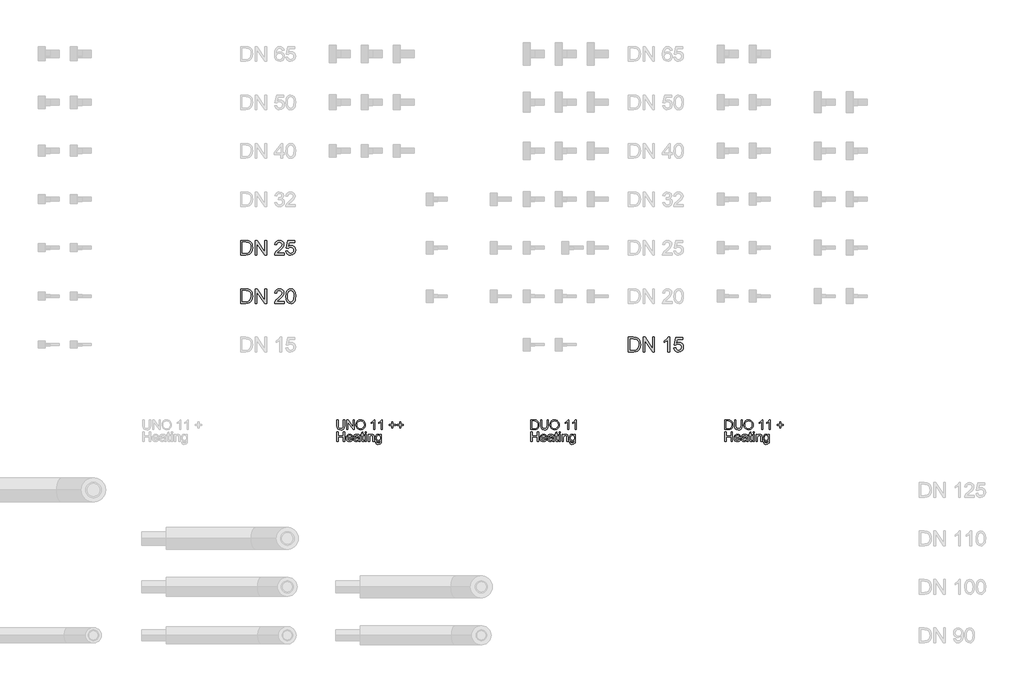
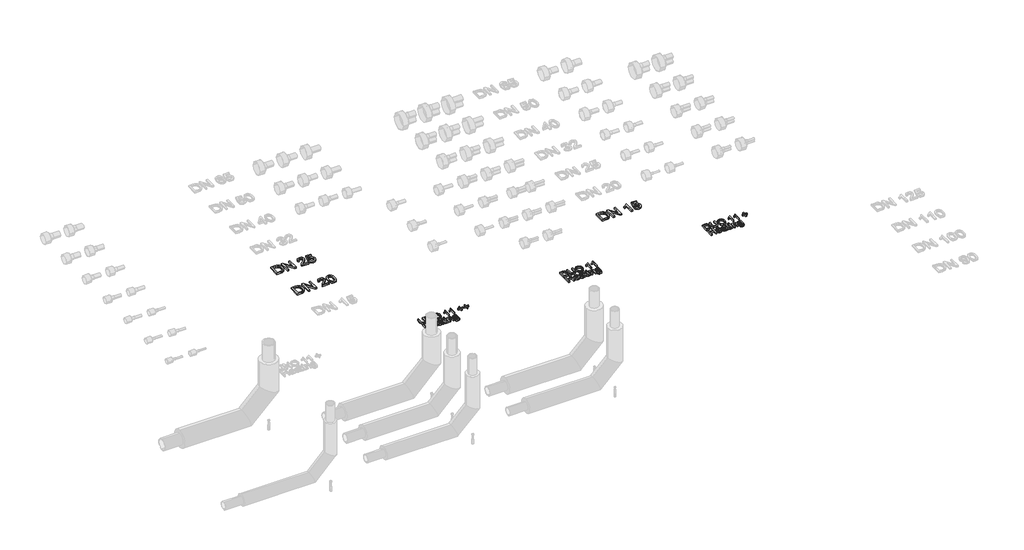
# One storey, part 22 of 44: 6 proxies.
"""IFC4 building model written with IfcOpenShell, lengths in millimetres."""

from ifc_helpers import new_model, si_unit, origin, origin_with_axes, place, context, project, spatial, polyline, outline, extrude, element, save

model = new_model("IFC4")

# Units and contexts
model_context = context("Model", 3, world=origin())
ifc_project = project(units=[si_unit("LENGTHUNIT", "METRE", prefix="MILLI")], contexts=[model_context])

# Site, building, storey
site = spatial("IfcSite", under=ifc_project)
building = spatial("IfcBuilding", under=site)
storey = spatial("IfcBuildingStorey", under=building, Name="REHAU Starting view", Elevation=0.0)

# Proxies
placement = place(None, origin())
element("IfcBuildingElementProxy", 1, Name="100", ObjectType="100", at=placement, inside=storey, context=model_context, shape_type="SweptSolid", body=[
    extrude(outline(polyline([(27076.9118625, 6222.431128), (27089.4689012, 6222.431128), (27089.4689012, 6164.477451), (27086.0598614, 6140.4547567), (27073.7726028, 6125.9847316), (27063.5086951, 6121.8000739), (27050.4734097, 6120.405188), (27027.529836, 6125.2612303), (27019.8901532, 6131.2055902), (27014.8011189, 6139.3265853), (27010.9874089, 6164.477451), (27010.9874089, 6222.431128), (27023.5444477, 6222.431128), (27023.5444477, 6164.9189094), (27026.0215198, 6145.7767829), (27034.5318566, 6136.2976902), (27049.2961874, 6132.9622268), (27062.067824, 6134.6115644), (27070.5597667, 6139.5595772), (27075.3238385, 6149.1980855), (27076.9118625, 6164.9189094), (27076.9118625, 6222.431128)])), origin_with_axes(), (0.0, 0.0, 1.0), 20.0),
    extrude(outline(polyline([(27111.4437191, 6121.9748178), (27111.4437191, 6222.431128), (27124.8836746, 6222.431128), (27177.3681726, 6142.8459897), (27177.3681726, 6222.431128), (27189.9252114, 6222.431128), (27189.9252114, 6121.9748178), (27176.4852558, 6121.9748178), (27124.0007578, 6201.5844816), (27124.0007578, 6121.9748178), (27111.4437191, 6121.9748178)])), origin_with_axes(), (0.0, 0.0, 1.0), 20.0),
    extrude(outline(polyline([(27207.1911397, 6170.8785977), (27210.5388658, 6193.0925389), (27220.5820443, 6209.8986147), (27235.9165921, 6220.4752221), (27255.1384264, 6224.0007578), (27268.3147332, 6222.3452889), (27280.1298766, 6217.3788819), (27289.9400631, 6209.4510249), (27297.1014993, 6198.9112058), (27301.479295, 6186.2683279), (27302.9385603, 6172.0312947), (27301.402653, 6157.6041891), (27296.794931, 6144.7835015), (27289.369846, 6134.2252883), (27279.3818499, 6126.5856055), (27267.667874, 6121.9502924), (27255.06485, 6120.405188), (27241.6862081, 6122.1127736), (27229.8036197, 6127.2355304), (27220.0179586, 6135.3105402), (27212.9300988, 6145.8748848), (27207.1911397, 6170.8785977)]), holes=[polyline([(27219.7481785, 6170.7559704), (27222.2589731, 6155.0412778), (27229.7913569, 6143.0667189), (27241.1129253, 6135.4883498), (27254.9912736, 6132.9622268), (27269.071957, 6135.5128753), (27280.4119195, 6143.1648208), (27287.889121, 6155.5072617), (27290.3815215, 6172.1293965), (27286.1140904, 6192.8534156), (27273.6428907, 6206.575414), (27255.2120028, 6211.4437191), (27241.7046022, 6209.0984714), (27230.2205526, 6202.0627282), (27222.366272, 6189.5455433), (27219.7481785, 6170.7559704)])]), origin_with_axes(), (0.0, 0.0, 1.0), 20.0),
    extrude(outline(polyline([(27401.8252406, 6121.9748178), (27389.2682018, 6121.9748178), (27389.2682018, 6200.2601064), (27377.3733507, 6191.7865578), (27364.1541243, 6185.4467247), (27364.1541243, 6197.3170505), (27382.5604868, 6209.0647488), (27393.7318367, 6222.431128), (27401.8252406, 6222.431128), (27401.8252406, 6121.9748178)])), origin_with_axes(), (0.0, 0.0, 1.0), 20.0),
    extrude(outline(polyline([(27478.7371031, 6121.9748178), (27466.1800643, 6121.9748178), (27466.1800643, 6200.2601064), (27454.2852131, 6191.7865578), (27441.0659868, 6185.4467247), (27441.0659868, 6197.3170505), (27459.4723492, 6209.0647488), (27470.6436992, 6222.431128), (27478.7371031, 6222.431128), (27478.7371031, 6121.9748178)])), origin_with_axes(), (0.0, 0.0, 1.0), 20.0),
    extrude(outline(polyline([(27576.0541535, 6137.6711163), (27576.0541535, 6164.3548237), (27549.3704461, 6164.3548237), (27549.3704461, 6176.9118625), (27576.0541535, 6176.9118625), (27576.0541535, 6203.5955698), (27588.6111923, 6203.5955698), (27588.6111923, 6176.9118625), (27615.2948997, 6176.9118625), (27615.2948997, 6164.3548237), (27588.6111923, 6164.3548237), (27588.6111923, 6137.6711163), (27576.0541535, 6137.6711163)])), origin_with_axes(), (0.0, 0.0, 1.0), 20.0),
    extrude(outline(polyline([(27657.6749055, 6137.6711163), (27657.6749055, 6164.3548237), (27630.9911981, 6164.3548237), (27630.9911981, 6176.9118625), (27657.6749055, 6176.9118625), (27657.6749055, 6203.5955698), (27670.2319443, 6203.5955698), (27670.2319443, 6176.9118625), (27696.9156517, 6176.9118625), (27696.9156517, 6164.3548237), (27670.2319443, 6164.3548237), (27670.2319443, 6137.6711163), (27657.6749055, 6137.6711163)])), origin_with_axes(), (0.0, 0.0, 1.0), 20.0),
    extrude(outline(polyline([(27010.9874089, 6000.0), (27010.9874089, 6100.4563101), (27023.5444477, 6100.4563101), (27023.5444477, 6059.6459342), (27076.9118625, 6059.6459342), (27076.9118625, 6100.4563101), (27089.4689012, 6100.4563101), (27089.4689012, 6000.0), (27076.9118625, 6000.0), (27076.9118625, 6047.0888954), (27023.5444477, 6047.0888954), (27023.5444477, 6000.0), (27010.9874089, 6000.0)])), origin_with_axes(), (0.0, 0.0, 1.0), 20.0),
    extrude(outline(polyline([(27161.5247213, 6021.9748178), (27173.8365055, 6020.405188), (27169.4004617, 6011.1284304), (27162.321799, 6004.1938547), (27152.7599328, 5999.8712413), (27140.8742787, 5998.4303702), (27126.1406048, 6000.9166393), (27114.803708, 6008.3754468), (27107.5748268, 6020.3224146), (27105.1651997, 6036.2731647), (27107.5993522, 6052.7604095), (27114.9018098, 6065.0905877), (27126.0854225, 6072.7793214), (27140.1630402, 6075.3422326), (27153.8022651, 6072.7854527), (27164.7007692, 6065.1151131), (27171.846877, 6052.8094604), (27174.2289129, 6036.3467411), (27174.1553365, 6032.9622268), (27117.7222385, 6032.9622268), (27119.8958079, 6023.5628418), (27124.9449883, 6016.6527916), (27132.2321175, 6012.4037546), (27141.1195333, 6010.9874089), (27153.4313175, 6013.6116338), (27161.5247213, 6021.9748178)]), holes=[polyline([(27117.7222385, 6045.5192655), (27161.6718741, 6045.5192655), (27156.6441535, 6056.8990819), (27149.3233018, 6061.3136659), (27140.1139892, 6062.7851938), (27124.6506827, 6058.088567), (27119.7854433, 6052.5979283), (27117.7222385, 6045.5192655)])]), origin_with_axes(), (0.0, 0.0, 1.0), 20.0),
    extrude(outline(polyline([(27233.8748471, 6009.4177791), (27221.697953, 6000.9074423), (27208.2457347, 5998.4303702), (27197.7519008, 5999.9202922), (27190.0110505, 6004.3900585), (27185.2377816, 6011.1774813), (27183.646692, 6019.6203731), (27186.0501877, 6029.5531869), (27192.3654953, 6036.7636741), (27201.157875, 6040.8839524), (27212.0226566, 6042.7724133), (27233.8012707, 6047.0888954), (27233.8748471, 6049.8847985), (27230.4167563, 6059.1554248), (27216.5353424, 6062.7851938), (27203.8311508, 6060.3694354), (27197.7733606, 6051.7977849), (27185.2163218, 6053.3674148), (27190.6487126, 6065.6301479), (27201.5870706, 6072.8161096), (27218.1540231, 6075.3422326), (27233.372075, 6073.1104152), (27241.968251, 6067.5063461), (27245.8187492, 6058.9837466), (27246.4318858, 6047.9963376), (27246.4318858, 6032.3736156), (27247.069548, 6010.5582133), (27249.5711455, 6000.0), (27237.0141068, 6000.0), (27233.8748471, 6009.4177791)]), holes=[polyline([(27233.8748471, 6034.5318566), (27213.6168119, 6030.6813584), (27202.8133439, 6028.6457447), (27197.9205134, 6025.3348067), (27196.2037308, 6020.5032899), (27199.9438644, 6013.7097357), (27210.9190106, 6010.9874089), (27223.6232021, 6013.9917785), (27231.8147079, 6021.2635793), (27233.8012707, 6030.975664), (27233.8748471, 6034.5318566)])]), origin_with_axes(), (0.0, 0.0, 1.0), 20.0),
    extrude(outline(polyline([(27290.3815215, 6010.4723741), (27291.9511514, 5999.632118), (27282.5578978, 5998.4303702), (27272.0364727, 6000.5150348), (27266.7880229, 6005.9842138), (27265.267444, 6020.2335097), (27265.267444, 6061.215564), (27255.8496649, 6061.215564), (27255.8496649, 6073.7726028), (27265.267444, 6073.7726028), (27265.267444, 6091.7007187), (27277.8244828, 6099.082884), (27277.8244828, 6073.7726028), (27290.3815215, 6073.7726028), (27290.3815215, 6061.215564), (27277.8244828, 6061.215564), (27277.8244828, 6020.6013917), (27278.4866703, 6014.1266686), (27280.6326487, 6011.8335375), (27284.9123425, 6010.9874089), (27290.3815215, 6010.4723741)])), origin_with_axes(), (0.0, 0.0, 1.0), 20.0),
    extrude(outline(polyline([(27302.9385603, 6087.8992714), (27302.9385603, 6100.4563101), (27315.4955991, 6100.4563101), (27315.4955991, 6087.8992714), (27302.9385603, 6087.8992714)])), origin_with_axes(), (0.0, 0.0, 1.0), 20.0),
    extrude(outline(polyline([(27302.9385603, 6000.0), (27302.9385603, 6073.7726028), (27315.4955991, 6073.7726028), (27315.4955991, 6000.0), (27302.9385603, 6000.0)])), origin_with_axes(), (0.0, 0.0, 1.0), 20.0),
    extrude(outline(polyline([(27334.3311572, 6000.0), (27334.3311572, 6073.7726028), (27346.888196, 6073.7726028), (27346.888196, 6063.4719069), (27356.4899161, 6072.3746512), (27369.5987778, 6075.3422326), (27381.4568408, 6072.9509996), (27389.5502447, 6066.6724803), (27393.3149038, 6057.4386422), (27393.9770914, 6045.2985363), (27393.9770914, 6000.0), (27381.4200526, 6000.0), (27381.4200526, 6043.6062792), (27379.9730501, 6054.7163154), (27374.8594904, 6060.5901646), (27366.2387889, 6062.7851938), (27352.6148924, 6057.8555751), (27348.3198701, 6050.712533), (27346.888196, 6039.1426443), (27346.888196, 6000.0), (27334.3311572, 6000.0)])), origin_with_axes(), (0.0, 0.0, 1.0), 20.0),
    extrude(outline(polyline([(27408.10376, 5993.7214806), (27420.6607988, 5992.1518508), (27424.7320262, 5985.5299749), (27436.9211829, 5982.7340717), (27449.7725273, 5985.8978569), (27455.9038939, 5994.7760757), (27456.7622852, 6009.4177791), (27447.9208546, 6002.3544448), (27437.1419121, 6000.0), (27424.1955316, 6002.7407209), (27414.5416949, 6010.9628835), (27408.5360213, 6023.0171502), (27406.5341301, 6037.2541834), (27410.127111, 6056.7151409), (27420.5259087, 6070.4861903), (27436.5287755, 6075.3422326), (27447.7307822, 6072.5953804), (27456.7622852, 6064.3548237), (27456.7622852, 6073.7726028), (27469.319324, 6073.7726028), (27469.319324, 6010.0799667), (27465.8857587, 5985.6893904), (27455.0087144, 5974.3463622), (27436.6759283, 5970.1770329), (27424.9926092, 5971.6454952), (27415.7924937, 5976.0508821), (27409.8910533, 5983.4054563), (27408.10376, 5993.7214806)]), holes=[polyline([(27419.0911689, 6038.1125747), (27420.4308725, 6026.5948026), (27424.4499833, 6018.6761426), (27430.4924451, 6014.0868147), (27437.9022016, 6012.5570388), (27445.2567758, 6014.0776177), (27451.3298944, 6018.6393544), (27455.4041875, 6026.4568468), (27456.7622852, 6037.7446927), (27455.3643336, 6048.6309341), (27451.1704789, 6056.4698863), (27445.0084555, 6061.2063669), (27437.7059979, 6062.7851938), (27430.5353646, 6061.2308924), (27424.5235597, 6056.5679881), (27420.4492666, 6048.8455319), (27419.0911689, 6038.1125747)])]), origin_with_axes(), (0.0, 0.0, 1.0), 20.0),
])
element("IfcBuildingElementProxy", 2, Name="100", ObjectType="100", at=placement, inside=storey, context=model_context, shape_type="SweptSolid", body=[
    extrude(outline(polyline([(29010.9874089, 6121.9748178), (29010.9874089, 6222.431128), (29045.6418929, 6222.431128), (29063.5700088, 6220.9841255), (29078.3343395, 6213.7981638), (29090.2291907, 6196.6303374), (29094.1777908, 6172.7425332), (29091.5045149, 6152.4722352), (29084.6373844, 6137.8427946), (29075.4648599, 6128.7315838), (29063.4596442, 6123.6916005), (29047.3096246, 6121.9748178), (29010.9874089, 6121.9748178)]), holes=[polyline([(29023.5444477, 6134.5318566), (29045.7645202, 6134.5318566), (29061.9268025, 6136.3467411), (29071.2464797, 6141.4725636), (29078.8861625, 6153.9437632), (29081.620752, 6172.9387369), (29080.2810484, 6186.6239471), (29076.2619376, 6196.7284393), (29063.2266522, 6207.863001), (29045.4211637, 6209.8740892), (29023.5444477, 6209.8740892), (29023.5444477, 6134.5318566)])]), origin_with_axes(), (0.0, 0.0, 1.0), 20.0),
    extrude(outline(polyline([(29177.3681726, 6222.431128), (29189.9252114, 6222.431128), (29189.9252114, 6164.477451), (29186.5161716, 6140.4547567), (29174.2289129, 6125.9847316), (29163.9650053, 6121.8000739), (29150.9297199, 6120.405188), (29127.9861461, 6125.2612303), (29120.3464634, 6131.2055902), (29115.2574291, 6139.3265853), (29111.4437191, 6164.477451), (29111.4437191, 6222.431128), (29124.0007578, 6222.431128), (29124.0007578, 6164.9189094), (29126.4778299, 6145.7767829), (29134.9881668, 6136.2976902), (29149.7524975, 6132.9622268), (29162.5241341, 6134.6115644), (29171.0160768, 6139.5595772), (29175.7801487, 6149.1980855), (29177.3681726, 6164.9189094), (29177.3681726, 6222.431128)])), origin_with_axes(), (0.0, 0.0, 1.0), 20.0),
    extrude(outline(polyline([(29207.1911397, 6170.8785977), (29210.5388658, 6193.0925389), (29220.5820443, 6209.8986147), (29235.9165921, 6220.4752221), (29255.1384264, 6224.0007578), (29268.3147332, 6222.3452889), (29280.1298766, 6217.3788819), (29289.9400631, 6209.4510249), (29297.1014993, 6198.9112058), (29301.479295, 6186.2683279), (29302.9385603, 6172.0312947), (29301.402653, 6157.6041891), (29296.794931, 6144.7835015), (29289.369846, 6134.2252883), (29279.3818499, 6126.5856055), (29267.667874, 6121.9502924), (29255.06485, 6120.405188), (29241.6862081, 6122.1127736), (29229.8036197, 6127.2355304), (29220.0179586, 6135.3105402), (29212.9300988, 6145.8748848), (29207.1911397, 6170.8785977)]), holes=[polyline([(29219.7481785, 6170.7559704), (29222.2589731, 6155.0412778), (29229.7913569, 6143.0667189), (29241.1129253, 6135.4883498), (29254.9912736, 6132.9622268), (29269.071957, 6135.5128753), (29280.4119195, 6143.1648208), (29287.889121, 6155.5072617), (29290.3815215, 6172.1293965), (29286.1140904, 6192.8534156), (29273.6428907, 6206.575414), (29255.2120028, 6211.4437191), (29241.7046022, 6209.0984714), (29230.2205526, 6202.0627282), (29222.366272, 6189.5455433), (29219.7481785, 6170.7559704)])]), origin_with_axes(), (0.0, 0.0, 1.0), 20.0),
    extrude(outline(polyline([(29401.8252406, 6121.9748178), (29389.2682018, 6121.9748178), (29389.2682018, 6200.2601064), (29377.3733507, 6191.7865578), (29364.1541243, 6185.4467247), (29364.1541243, 6197.3170505), (29382.5604868, 6209.0647488), (29393.7318367, 6222.431128), (29401.8252406, 6222.431128), (29401.8252406, 6121.9748178)])), origin_with_axes(), (0.0, 0.0, 1.0), 20.0),
    extrude(outline(polyline([(29478.7371031, 6121.9748178), (29466.1800643, 6121.9748178), (29466.1800643, 6200.2601064), (29454.2852131, 6191.7865578), (29441.0659868, 6185.4467247), (29441.0659868, 6197.3170505), (29459.4723492, 6209.0647488), (29470.6436992, 6222.431128), (29478.7371031, 6222.431128), (29478.7371031, 6121.9748178)])), origin_with_axes(), (0.0, 0.0, 1.0), 20.0),
    extrude(outline(polyline([(29010.9874089, 6000.0), (29010.9874089, 6100.4563101), (29023.5444477, 6100.4563101), (29023.5444477, 6059.6459342), (29076.9118625, 6059.6459342), (29076.9118625, 6100.4563101), (29089.4689012, 6100.4563101), (29089.4689012, 6000.0), (29076.9118625, 6000.0), (29076.9118625, 6047.0888954), (29023.5444477, 6047.0888954), (29023.5444477, 6000.0), (29010.9874089, 6000.0)])), origin_with_axes(), (0.0, 0.0, 1.0), 20.0),
    extrude(outline(polyline([(29161.5247213, 6021.9748178), (29173.8365055, 6020.405188), (29169.4004617, 6011.1284304), (29162.321799, 6004.1938547), (29152.7599328, 5999.8712413), (29140.8742787, 5998.4303702), (29126.1406048, 6000.9166393), (29114.803708, 6008.3754468), (29107.5748268, 6020.3224146), (29105.1651997, 6036.2731647), (29107.5993522, 6052.7604095), (29114.9018098, 6065.0905877), (29126.0854225, 6072.7793214), (29140.1630402, 6075.3422326), (29153.8022651, 6072.7854527), (29164.7007692, 6065.1151131), (29171.846877, 6052.8094604), (29174.2289129, 6036.3467411), (29174.1553365, 6032.9622268), (29117.7222385, 6032.9622268), (29119.8958079, 6023.5628418), (29124.9449883, 6016.6527916), (29132.2321175, 6012.4037546), (29141.1195333, 6010.9874089), (29153.4313175, 6013.6116338), (29161.5247213, 6021.9748178)]), holes=[polyline([(29117.7222385, 6045.5192655), (29161.6718741, 6045.5192655), (29156.6441535, 6056.8990819), (29149.3233018, 6061.3136659), (29140.1139892, 6062.7851938), (29124.6506827, 6058.088567), (29119.7854433, 6052.5979283), (29117.7222385, 6045.5192655)])]), origin_with_axes(), (0.0, 0.0, 1.0), 20.0),
    extrude(outline(polyline([(29233.8748471, 6009.4177791), (29221.697953, 6000.9074423), (29208.2457347, 5998.4303702), (29197.7519008, 5999.9202922), (29190.0110505, 6004.3900585), (29185.2377816, 6011.1774813), (29183.646692, 6019.6203731), (29186.0501877, 6029.5531869), (29192.3654953, 6036.7636741), (29201.157875, 6040.8839524), (29212.0226566, 6042.7724133), (29233.8012707, 6047.0888954), (29233.8748471, 6049.8847985), (29230.4167563, 6059.1554248), (29216.5353424, 6062.7851938), (29203.8311508, 6060.3694354), (29197.7733606, 6051.7977849), (29185.2163218, 6053.3674148), (29190.6487126, 6065.6301479), (29201.5870706, 6072.8161096), (29218.1540231, 6075.3422326), (29233.372075, 6073.1104152), (29241.968251, 6067.5063461), (29245.8187492, 6058.9837466), (29246.4318858, 6047.9963376), (29246.4318858, 6032.3736156), (29247.069548, 6010.5582133), (29249.5711455, 6000.0), (29237.0141068, 6000.0), (29233.8748471, 6009.4177791)]), holes=[polyline([(29233.8748471, 6034.5318566), (29213.6168119, 6030.6813584), (29202.8133439, 6028.6457447), (29197.9205134, 6025.3348067), (29196.2037308, 6020.5032899), (29199.9438644, 6013.7097357), (29210.9190106, 6010.9874089), (29223.6232021, 6013.9917785), (29231.8147079, 6021.2635793), (29233.8012707, 6030.975664), (29233.8748471, 6034.5318566)])]), origin_with_axes(), (0.0, 0.0, 1.0), 20.0),
    extrude(outline(polyline([(29290.3815215, 6010.4723741), (29291.9511514, 5999.632118), (29282.5578978, 5998.4303702), (29272.0364727, 6000.5150348), (29266.7880229, 6005.9842138), (29265.267444, 6020.2335097), (29265.267444, 6061.215564), (29255.8496649, 6061.215564), (29255.8496649, 6073.7726028), (29265.267444, 6073.7726028), (29265.267444, 6091.7007187), (29277.8244828, 6099.082884), (29277.8244828, 6073.7726028), (29290.3815215, 6073.7726028), (29290.3815215, 6061.215564), (29277.8244828, 6061.215564), (29277.8244828, 6020.6013917), (29278.4866703, 6014.1266686), (29280.6326487, 6011.8335375), (29284.9123425, 6010.9874089), (29290.3815215, 6010.4723741)])), origin_with_axes(), (0.0, 0.0, 1.0), 20.0),
    extrude(outline(polyline([(29302.9385603, 6087.8992714), (29302.9385603, 6100.4563101), (29315.4955991, 6100.4563101), (29315.4955991, 6087.8992714), (29302.9385603, 6087.8992714)])), origin_with_axes(), (0.0, 0.0, 1.0), 20.0),
    extrude(outline(polyline([(29302.9385603, 6000.0), (29302.9385603, 6073.7726028), (29315.4955991, 6073.7726028), (29315.4955991, 6000.0), (29302.9385603, 6000.0)])), origin_with_axes(), (0.0, 0.0, 1.0), 20.0),
    extrude(outline(polyline([(29334.3311572, 6000.0), (29334.3311572, 6073.7726028), (29346.888196, 6073.7726028), (29346.888196, 6063.4719069), (29356.4899161, 6072.3746512), (29369.5987778, 6075.3422326), (29381.4568408, 6072.9509996), (29389.5502447, 6066.6724803), (29393.3149038, 6057.4386422), (29393.9770914, 6045.2985363), (29393.9770914, 6000.0), (29381.4200526, 6000.0), (29381.4200526, 6043.6062792), (29379.9730501, 6054.7163154), (29374.8594904, 6060.5901646), (29366.2387889, 6062.7851938), (29352.6148924, 6057.8555751), (29348.3198701, 6050.712533), (29346.888196, 6039.1426443), (29346.888196, 6000.0), (29334.3311572, 6000.0)])), origin_with_axes(), (0.0, 0.0, 1.0), 20.0),
    extrude(outline(polyline([(29408.10376, 5993.7214806), (29420.6607988, 5992.1518508), (29424.7320262, 5985.5299749), (29436.9211829, 5982.7340717), (29449.7725273, 5985.8978569), (29455.9038939, 5994.7760757), (29456.7622852, 6009.4177791), (29447.9208546, 6002.3544448), (29437.1419121, 6000.0), (29424.1955316, 6002.7407209), (29414.5416949, 6010.9628835), (29408.5360213, 6023.0171502), (29406.5341301, 6037.2541834), (29410.127111, 6056.7151409), (29420.5259087, 6070.4861903), (29436.5287755, 6075.3422326), (29447.7307822, 6072.5953804), (29456.7622852, 6064.3548237), (29456.7622852, 6073.7726028), (29469.319324, 6073.7726028), (29469.319324, 6010.0799667), (29465.8857587, 5985.6893904), (29455.0087144, 5974.3463622), (29436.6759283, 5970.1770329), (29424.9926092, 5971.6454952), (29415.7924937, 5976.0508821), (29409.8910533, 5983.4054563), (29408.10376, 5993.7214806)]), holes=[polyline([(29419.0911689, 6038.1125747), (29420.4308725, 6026.5948026), (29424.4499833, 6018.6761426), (29430.4924451, 6014.0868147), (29437.9022016, 6012.5570388), (29445.2567758, 6014.0776177), (29451.3298944, 6018.6393544), (29455.4041875, 6026.4568468), (29456.7622852, 6037.7446927), (29455.3643336, 6048.6309341), (29451.1704789, 6056.4698863), (29445.0084555, 6061.2063669), (29437.7059979, 6062.7851938), (29430.5353646, 6061.2308924), (29424.5235597, 6056.5679881), (29420.4492666, 6048.8455319), (29419.0911689, 6038.1125747)])]), origin_with_axes(), (0.0, 0.0, 1.0), 20.0),
])
element("IfcBuildingElementProxy", 3, Name="100", ObjectType="100", at=placement, inside=storey, context=model_context, shape_type="SweptSolid", body=[
    extrude(outline(polyline([(31010.9874089, 6121.9748178), (31010.9874089, 6222.431128), (31045.6418929, 6222.431128), (31063.5700088, 6220.9841255), (31078.3343395, 6213.7981638), (31090.2291907, 6196.6303374), (31094.1777908, 6172.7425332), (31091.5045149, 6152.4722352), (31084.6373844, 6137.8427946), (31075.4648599, 6128.7315838), (31063.4596442, 6123.6916005), (31047.3096246, 6121.9748178), (31010.9874089, 6121.9748178)]), holes=[polyline([(31023.5444477, 6134.5318566), (31045.7645202, 6134.5318566), (31061.9268025, 6136.3467411), (31071.2464797, 6141.4725636), (31078.8861625, 6153.9437632), (31081.620752, 6172.9387369), (31080.2810484, 6186.6239471), (31076.2619376, 6196.7284393), (31063.2266522, 6207.863001), (31045.4211637, 6209.8740892), (31023.5444477, 6209.8740892), (31023.5444477, 6134.5318566)])]), origin_with_axes(), (0.0, 0.0, 1.0), 20.0),
    extrude(outline(polyline([(31177.3681726, 6222.431128), (31189.9252114, 6222.431128), (31189.9252114, 6164.477451), (31186.5161716, 6140.4547567), (31174.2289129, 6125.9847316), (31163.9650053, 6121.8000739), (31150.9297199, 6120.405188), (31127.9861461, 6125.2612303), (31120.3464634, 6131.2055902), (31115.2574291, 6139.3265853), (31111.4437191, 6164.477451), (31111.4437191, 6222.431128), (31124.0007578, 6222.431128), (31124.0007578, 6164.9189094), (31126.4778299, 6145.7767829), (31134.9881668, 6136.2976902), (31149.7524975, 6132.9622268), (31162.5241341, 6134.6115644), (31171.0160768, 6139.5595772), (31175.7801487, 6149.1980855), (31177.3681726, 6164.9189094), (31177.3681726, 6222.431128)])), origin_with_axes(), (0.0, 0.0, 1.0), 20.0),
    extrude(outline(polyline([(31207.1911397, 6170.8785977), (31210.5388658, 6193.0925389), (31220.5820443, 6209.8986147), (31235.9165921, 6220.4752221), (31255.1384264, 6224.0007578), (31268.3147332, 6222.3452889), (31280.1298766, 6217.3788819), (31289.9400631, 6209.4510249), (31297.1014993, 6198.9112058), (31301.479295, 6186.2683279), (31302.9385603, 6172.0312947), (31301.402653, 6157.6041891), (31296.794931, 6144.7835015), (31289.369846, 6134.2252883), (31279.3818499, 6126.5856055), (31267.667874, 6121.9502924), (31255.06485, 6120.405188), (31241.6862081, 6122.1127736), (31229.8036197, 6127.2355304), (31220.0179586, 6135.3105402), (31212.9300988, 6145.8748848), (31207.1911397, 6170.8785977)]), holes=[polyline([(31219.7481785, 6170.7559704), (31222.2589731, 6155.0412778), (31229.7913569, 6143.0667189), (31241.1129253, 6135.4883498), (31254.9912736, 6132.9622268), (31269.071957, 6135.5128753), (31280.4119195, 6143.1648208), (31287.889121, 6155.5072617), (31290.3815215, 6172.1293965), (31286.1140904, 6192.8534156), (31273.6428907, 6206.575414), (31255.2120028, 6211.4437191), (31241.7046022, 6209.0984714), (31230.2205526, 6202.0627282), (31222.366272, 6189.5455433), (31219.7481785, 6170.7559704)])]), origin_with_axes(), (0.0, 0.0, 1.0), 20.0),
    extrude(outline(polyline([(31401.8252406, 6121.9748178), (31389.2682018, 6121.9748178), (31389.2682018, 6200.2601064), (31377.3733507, 6191.7865578), (31364.1541243, 6185.4467247), (31364.1541243, 6197.3170505), (31382.5604868, 6209.0647488), (31393.7318367, 6222.431128), (31401.8252406, 6222.431128), (31401.8252406, 6121.9748178)])), origin_with_axes(), (0.0, 0.0, 1.0), 20.0),
    extrude(outline(polyline([(31478.7371031, 6121.9748178), (31466.1800643, 6121.9748178), (31466.1800643, 6200.2601064), (31454.2852131, 6191.7865578), (31441.0659868, 6185.4467247), (31441.0659868, 6197.3170505), (31459.4723492, 6209.0647488), (31470.6436992, 6222.431128), (31478.7371031, 6222.431128), (31478.7371031, 6121.9748178)])), origin_with_axes(), (0.0, 0.0, 1.0), 20.0),
    extrude(outline(polyline([(31576.0541535, 6137.6711163), (31576.0541535, 6164.3548237), (31549.3704461, 6164.3548237), (31549.3704461, 6176.9118625), (31576.0541535, 6176.9118625), (31576.0541535, 6203.5955698), (31588.6111923, 6203.5955698), (31588.6111923, 6176.9118625), (31615.2948997, 6176.9118625), (31615.2948997, 6164.3548237), (31588.6111923, 6164.3548237), (31588.6111923, 6137.6711163), (31576.0541535, 6137.6711163)])), origin_with_axes(), (0.0, 0.0, 1.0), 20.0),
    extrude(outline(polyline([(31010.9874089, 6000.0), (31010.9874089, 6100.4563101), (31023.5444477, 6100.4563101), (31023.5444477, 6059.6459342), (31076.9118625, 6059.6459342), (31076.9118625, 6100.4563101), (31089.4689012, 6100.4563101), (31089.4689012, 6000.0), (31076.9118625, 6000.0), (31076.9118625, 6047.0888954), (31023.5444477, 6047.0888954), (31023.5444477, 6000.0), (31010.9874089, 6000.0)])), origin_with_axes(), (0.0, 0.0, 1.0), 20.0),
    extrude(outline(polyline([(31161.5247213, 6021.9748178), (31173.8365055, 6020.405188), (31169.4004617, 6011.1284304), (31162.321799, 6004.1938547), (31152.7599328, 5999.8712413), (31140.8742787, 5998.4303702), (31126.1406048, 6000.9166393), (31114.803708, 6008.3754468), (31107.5748268, 6020.3224146), (31105.1651997, 6036.2731647), (31107.5993522, 6052.7604095), (31114.9018098, 6065.0905877), (31126.0854225, 6072.7793214), (31140.1630402, 6075.3422326), (31153.8022651, 6072.7854527), (31164.7007692, 6065.1151131), (31171.846877, 6052.8094604), (31174.2289129, 6036.3467411), (31174.1553365, 6032.9622268), (31117.7222385, 6032.9622268), (31119.8958079, 6023.5628418), (31124.9449883, 6016.6527916), (31132.2321175, 6012.4037546), (31141.1195333, 6010.9874089), (31153.4313175, 6013.6116338), (31161.5247213, 6021.9748178)]), holes=[polyline([(31117.7222385, 6045.5192655), (31161.6718741, 6045.5192655), (31156.6441535, 6056.8990819), (31149.3233018, 6061.3136659), (31140.1139892, 6062.7851938), (31124.6506827, 6058.088567), (31119.7854433, 6052.5979283), (31117.7222385, 6045.5192655)])]), origin_with_axes(), (0.0, 0.0, 1.0), 20.0),
    extrude(outline(polyline([(31233.8748471, 6009.4177791), (31221.697953, 6000.9074423), (31208.2457347, 5998.4303702), (31197.7519008, 5999.9202922), (31190.0110505, 6004.3900585), (31185.2377816, 6011.1774813), (31183.646692, 6019.6203731), (31186.0501877, 6029.5531869), (31192.3654953, 6036.7636741), (31201.157875, 6040.8839524), (31212.0226566, 6042.7724133), (31233.8012707, 6047.0888954), (31233.8748471, 6049.8847985), (31230.4167563, 6059.1554248), (31216.5353424, 6062.7851938), (31203.8311508, 6060.3694354), (31197.7733606, 6051.7977849), (31185.2163218, 6053.3674148), (31190.6487126, 6065.6301479), (31201.5870706, 6072.8161096), (31218.1540231, 6075.3422326), (31233.372075, 6073.1104152), (31241.968251, 6067.5063461), (31245.8187492, 6058.9837466), (31246.4318858, 6047.9963376), (31246.4318858, 6032.3736156), (31247.069548, 6010.5582133), (31249.5711455, 6000.0), (31237.0141068, 6000.0), (31233.8748471, 6009.4177791)]), holes=[polyline([(31233.8748471, 6034.5318566), (31213.6168119, 6030.6813584), (31202.8133439, 6028.6457447), (31197.9205134, 6025.3348067), (31196.2037308, 6020.5032899), (31199.9438644, 6013.7097357), (31210.9190106, 6010.9874089), (31223.6232021, 6013.9917785), (31231.8147079, 6021.2635793), (31233.8012707, 6030.975664), (31233.8748471, 6034.5318566)])]), origin_with_axes(), (0.0, 0.0, 1.0), 20.0),
    extrude(outline(polyline([(31290.3815215, 6010.4723741), (31291.9511514, 5999.632118), (31282.5578978, 5998.4303702), (31272.0364727, 6000.5150348), (31266.7880229, 6005.9842138), (31265.267444, 6020.2335097), (31265.267444, 6061.215564), (31255.8496649, 6061.215564), (31255.8496649, 6073.7726028), (31265.267444, 6073.7726028), (31265.267444, 6091.7007187), (31277.8244828, 6099.082884), (31277.8244828, 6073.7726028), (31290.3815215, 6073.7726028), (31290.3815215, 6061.215564), (31277.8244828, 6061.215564), (31277.8244828, 6020.6013917), (31278.4866703, 6014.1266686), (31280.6326487, 6011.8335375), (31284.9123425, 6010.9874089), (31290.3815215, 6010.4723741)])), origin_with_axes(), (0.0, 0.0, 1.0), 20.0),
    extrude(outline(polyline([(31302.9385603, 6087.8992714), (31302.9385603, 6100.4563101), (31315.4955991, 6100.4563101), (31315.4955991, 6087.8992714), (31302.9385603, 6087.8992714)])), origin_with_axes(), (0.0, 0.0, 1.0), 20.0),
    extrude(outline(polyline([(31302.9385603, 6000.0), (31302.9385603, 6073.7726028), (31315.4955991, 6073.7726028), (31315.4955991, 6000.0), (31302.9385603, 6000.0)])), origin_with_axes(), (0.0, 0.0, 1.0), 20.0),
    extrude(outline(polyline([(31334.3311572, 6000.0), (31334.3311572, 6073.7726028), (31346.888196, 6073.7726028), (31346.888196, 6063.4719069), (31356.4899161, 6072.3746512), (31369.5987778, 6075.3422326), (31381.4568408, 6072.9509996), (31389.5502447, 6066.6724803), (31393.3149038, 6057.4386422), (31393.9770914, 6045.2985363), (31393.9770914, 6000.0), (31381.4200526, 6000.0), (31381.4200526, 6043.6062792), (31379.9730501, 6054.7163154), (31374.8594904, 6060.5901646), (31366.2387889, 6062.7851938), (31352.6148924, 6057.8555751), (31348.3198701, 6050.712533), (31346.888196, 6039.1426443), (31346.888196, 6000.0), (31334.3311572, 6000.0)])), origin_with_axes(), (0.0, 0.0, 1.0), 20.0),
    extrude(outline(polyline([(31408.10376, 5993.7214806), (31420.6607988, 5992.1518508), (31424.7320262, 5985.5299749), (31436.9211829, 5982.7340717), (31449.7725273, 5985.8978569), (31455.9038939, 5994.7760757), (31456.7622852, 6009.4177791), (31447.9208546, 6002.3544448), (31437.1419121, 6000.0), (31424.1955316, 6002.7407209), (31414.5416949, 6010.9628835), (31408.5360213, 6023.0171502), (31406.5341301, 6037.2541834), (31410.127111, 6056.7151409), (31420.5259087, 6070.4861903), (31436.5287755, 6075.3422326), (31447.7307822, 6072.5953804), (31456.7622852, 6064.3548237), (31456.7622852, 6073.7726028), (31469.319324, 6073.7726028), (31469.319324, 6010.0799667), (31465.8857587, 5985.6893904), (31455.0087144, 5974.3463622), (31436.6759283, 5970.1770329), (31424.9926092, 5971.6454952), (31415.7924937, 5976.0508821), (31409.8910533, 5983.4054563), (31408.10376, 5993.7214806)]), holes=[polyline([(31419.0911689, 6038.1125747), (31420.4308725, 6026.5948026), (31424.4499833, 6018.6761426), (31430.4924451, 6014.0868147), (31437.9022016, 6012.5570388), (31445.2567758, 6014.0776177), (31451.3298944, 6018.6393544), (31455.4041875, 6026.4568468), (31456.7622852, 6037.7446927), (31455.3643336, 6048.6309341), (31451.1704789, 6056.4698863), (31445.0084555, 6061.2063669), (31437.7059979, 6062.7851938), (31430.5353646, 6061.2308924), (31424.5235597, 6056.5679881), (31420.4492666, 6048.8455319), (31419.0911689, 6038.1125747)])]), origin_with_axes(), (0.0, 0.0, 1.0), 20.0),
])
element("IfcBuildingElementProxy", 4, Name="150", ObjectType="150", at=placement, inside=storey, context=model_context, shape_type="SweptSolid", body=[
    extrude(outline(polyline([(26016.4811134, 7425.0), (26016.4811134, 7575.6844652), (26068.4628393, 7575.6844652), (26095.3550131, 7573.5139615), (26117.5015093, 7562.735019), (26127.9217668, 7551.2571007), (26135.343786, 7536.9832793), (26139.7859611, 7520.1894663), (26141.2666861, 7501.151573), (26137.2567724, 7470.7461261), (26126.9560765, 7448.8019651), (26113.1972899, 7435.135149), (26095.1894663, 7427.575174), (26070.9644369, 7425.0), (26016.4811134, 7425.0)]), holes=[polyline([(26035.3166715, 7443.8355582), (26068.6467803, 7443.8355582), (26092.8902038, 7446.5578849), (26106.8697196, 7454.2466186), (26118.3292437, 7472.9534181), (26122.431128, 7501.4458786), (26120.4215726, 7521.9736939), (26114.3929064, 7537.1304321), (26105.4855636, 7547.5414926), (26094.8399784, 7553.8322747), (26068.1317455, 7556.8489071), (26035.3166715, 7556.8489071), (26035.3166715, 7443.8355582)])]), origin_with_axes(), (0.0, 0.0, 1.0), 20.0),
    extrude(outline(polyline([(26167.1655786, 7425.0), (26167.1655786, 7575.6844652), (26187.3255119, 7575.6844652), (26266.0522589, 7456.3067578), (26266.0522589, 7575.6844652), (26284.8878171, 7575.6844652), (26284.8878171, 7425.0), (26264.7278837, 7425.0), (26186.0011368, 7544.4144956), (26186.0011368, 7425.0), (26167.1655786, 7425.0)])), origin_with_axes(), (0.0, 0.0, 1.0), 20.0),
    extrude(outline(polyline([(26466.1800643, 7443.8355582), (26466.1800643, 7425.0), (26367.293384, 7425.0), (26369.316735, 7437.9862344), (26380.757865, 7457.9806209), (26404.3391009, 7479.8144173), (26436.8598693, 7511.1947515), (26442.9575133, 7522.0104821), (26444.9900614, 7532.5319072), (26443.0724765, 7541.9634818), (26437.3197218, 7549.8039669), (26428.4767583, 7555.087672), (26417.2885471, 7556.8489071), (26405.5393159, 7555.1290587), (26396.4112439, 7549.9695138), (26390.5205335, 7541.7749423), (26388.4833869, 7530.9500146), (26369.6478288, 7533.3044594), (26374.214164, 7551.5238152), (26384.0871971, 7564.8319464), (26398.7518931, 7572.9713355), (26417.6932173, 7575.6844652), (26436.7724973, 7572.6678329), (26451.4096022, 7563.6179358), (26460.7216152, 7550.0982725), (26463.8256195, 7533.6723414), (26460.4778934, 7515.8116705), (26449.349463, 7497.3439944), (26422.3653187, 7471.5370724), (26400.6970691, 7453.4188841), (26392.1989951, 7443.8355582), (26466.1800643, 7443.8355582)])), origin_with_axes(), (0.0, 0.0, 1.0), 20.0),
    extrude(outline(polyline([(26485.0156224, 7499.128222), (26486.3997784, 7523.2474853), (26490.5522465, 7542.4831152), (26497.4316398, 7557.1294171), (26506.9965717, 7567.4806967), (26519.31602, 7573.6335231), (26534.4589626, 7575.6844652), (26556.4583059, 7570.8284229), (26571.6518323, 7556.830513), (26580.4810002, 7534.5368641), (26583.9023027, 7499.128222), (26582.5319423, 7475.1469145), (26578.420861, 7455.9572699), (26571.5828544, 7441.2971724), (26562.0317181, 7430.904506), (26549.6846787, 7424.7102929), (26534.4589626, 7422.6455552), (26514.8876404, 7426.2324047), (26500.0252078, 7436.992953), (26488.7680188, 7462.4779783), (26485.0156224, 7499.128222)]), holes=[polyline([(26503.8511806, 7499.1650102), (26506.0584726, 7469.536714), (26512.6803485, 7452.3888145), (26522.5395859, 7444.2080387), (26534.4589626, 7441.4811134), (26546.3783392, 7444.2172357), (26556.2375767, 7452.4256027), (26562.8594526, 7469.5826993), (26565.0667446, 7499.1650102), (26562.933029, 7528.1265203), (26556.5318823, 7545.407777), (26546.6910389, 7553.9886246), (26534.2382334, 7556.8489071), (26522.4476155, 7554.3289154), (26512.9746541, 7546.7689404), (26506.132049, 7528.4116288), (26503.8511806, 7499.1650102)])]), origin_with_axes(), (0.0, 0.0, 1.0), 20.0),
])
element("IfcBuildingElementProxy", 5, Name="150", ObjectType="150", at=placement, inside=storey, context=model_context, shape_type="SweptSolid", body=[
    extrude(outline(polyline([(26016.4811134, 7925.0), (26016.4811134, 8075.6844652), (26068.4628393, 8075.6844652), (26095.3550131, 8073.5139615), (26117.5015093, 8062.735019), (26127.9217668, 8051.2571007), (26135.343786, 8036.9832793), (26139.7859611, 8020.1894663), (26141.2666861, 8001.151573), (26137.2567724, 7970.7461261), (26126.9560765, 7948.8019651), (26113.1972899, 7935.135149), (26095.1894663, 7927.575174), (26070.9644369, 7925.0), (26016.4811134, 7925.0)]), holes=[polyline([(26035.3166715, 7943.8355582), (26068.6467803, 7943.8355582), (26092.8902038, 7946.5578849), (26106.8697196, 7954.2466186), (26118.3292437, 7972.9534181), (26122.431128, 8001.4458786), (26120.4215726, 8021.9736939), (26114.3929064, 8037.1304321), (26105.4855636, 8047.5414926), (26094.8399784, 8053.8322747), (26068.1317455, 8056.8489071), (26035.3166715, 8056.8489071), (26035.3166715, 7943.8355582)])]), origin_with_axes(), (0.0, 0.0, 1.0), 20.0),
    extrude(outline(polyline([(26167.1655786, 7925.0), (26167.1655786, 8075.6844652), (26187.3255119, 8075.6844652), (26266.0522589, 7956.3067578), (26266.0522589, 8075.6844652), (26284.8878171, 8075.6844652), (26284.8878171, 7925.0), (26264.7278837, 7925.0), (26186.0011368, 8044.4144956), (26186.0011368, 7925.0), (26167.1655786, 7925.0)])), origin_with_axes(), (0.0, 0.0, 1.0), 20.0),
    extrude(outline(polyline([(26466.1800643, 7943.8355582), (26466.1800643, 7925.0), (26367.293384, 7925.0), (26369.316735, 7937.9862344), (26380.757865, 7957.9806209), (26404.3391009, 7979.8144173), (26436.8598693, 8011.1947515), (26442.9575133, 8022.0104821), (26444.9900614, 8032.5319072), (26443.0724765, 8041.9634818), (26437.3197218, 8049.8039669), (26428.4767583, 8055.087672), (26417.2885471, 8056.8489071), (26405.5393159, 8055.1290587), (26396.4112439, 8049.9695138), (26390.5205335, 8041.7749423), (26388.4833869, 8030.9500146), (26369.6478288, 8033.3044594), (26374.214164, 8051.5238152), (26384.0871971, 8064.8319464), (26398.7518931, 8072.9713355), (26417.6932173, 8075.6844652), (26436.7724973, 8072.6678329), (26451.4096022, 8063.6179358), (26460.7216152, 8050.0982725), (26463.8256195, 8033.6723414), (26460.4778934, 8015.8116705), (26449.349463, 7997.3439944), (26422.3653187, 7971.5370724), (26400.6970691, 7953.4188841), (26392.1989951, 7943.8355582), (26466.1800643, 7943.8355582)])), origin_with_axes(), (0.0, 0.0, 1.0), 20.0),
    extrude(outline(polyline([(26485.0156224, 7965.0255611), (26503.8511806, 7967.3800058), (26507.3092713, 7956.072233), (26513.3425361, 7947.9742306), (26521.9233836, 7943.1043927), (26533.0242228, 7941.4811134), (26546.525492, 7943.7389891), (26556.6422469, 7950.5126164), (26562.9606202, 7961.0202459), (26565.0667446, 7974.4801284), (26563.0939774, 7987.1536631), (26557.1756758, 7996.8473537), (26547.2658545, 8003.00018), (26533.3185284, 8005.0511222), (26516.7822327, 8001.7769724), (26506.2056254, 7993.2788983), (26487.3700672, 7995.6333431), (26503.8511806, 8073.3300205), (26576.8389684, 8073.3300205), (26576.8389684, 8054.4944623), (26519.0814952, 8054.4944623), (26511.0248795, 8012.9973732), (26524.4801635, 8021.1643535), (26538.5792409, 8023.8866803), (26556.1777959, 8020.511363), (26570.7873096, 8010.3854111), (26580.6235545, 7994.9527614), (26583.9023027, 7975.6573507), (26580.9500497, 7956.8217926), (26572.0932907, 7940.7085612), (26555.1339307, 7927.1613067), (26532.9506464, 7922.6455552), (26514.4507806, 7925.5472245), (26499.7125081, 7934.2522322), (26489.6095489, 7947.7489029), (26485.0156224, 7965.0255611)])), origin_with_axes(), (0.0, 0.0, 1.0), 20.0),
])
element("IfcBuildingElementProxy", 6, Name="150", ObjectType="150", at=placement, inside=storey, context=model_context, shape_type="SweptSolid", body=[
    extrude(outline(polyline([(30016.4811134, 6925.0), (30016.4811134, 7075.6844652), (30068.4628393, 7075.6844652), (30095.3550131, 7073.5139615), (30117.5015093, 7062.735019), (30127.9217668, 7051.2571007), (30135.343786, 7036.9832793), (30139.7859611, 7020.1894663), (30141.2666861, 7001.151573), (30137.2567724, 6970.7461261), (30126.9560765, 6948.8019651), (30113.1972899, 6935.135149), (30095.1894663, 6927.575174), (30070.9644369, 6925.0), (30016.4811134, 6925.0)]), holes=[polyline([(30035.3166715, 6943.8355582), (30068.6467803, 6943.8355582), (30092.8902038, 6946.5578849), (30106.8697196, 6954.2466186), (30118.3292437, 6972.9534181), (30122.431128, 7001.4458786), (30120.4215726, 7021.9736939), (30114.3929064, 7037.1304321), (30105.4855636, 7047.5414926), (30094.8399784, 7053.8322747), (30068.1317455, 7056.8489071), (30035.3166715, 7056.8489071), (30035.3166715, 6943.8355582)])]), origin_with_axes(), (0.0, 0.0, 1.0), 20.0),
    extrude(outline(polyline([(30167.1655786, 6925.0), (30167.1655786, 7075.6844652), (30187.3255119, 7075.6844652), (30266.0522589, 6956.3067578), (30266.0522589, 7075.6844652), (30284.8878171, 7075.6844652), (30284.8878171, 6925.0), (30264.7278837, 6925.0), (30186.0011368, 7044.4144956), (30186.0011368, 6925.0), (30167.1655786, 6925.0)])), origin_with_axes(), (0.0, 0.0, 1.0), 20.0),
    extrude(outline(polyline([(30440.2811718, 6925.0), (30421.4456137, 6925.0), (30421.4456137, 7042.4279329), (30403.6033369, 7029.7176099), (30383.7744974, 7020.2078604), (30383.7744974, 7038.0133489), (30411.3840411, 7055.6348965), (30428.141066, 7075.6844652), (30440.2811718, 7075.6844652), (30440.2811718, 6925.0)])), origin_with_axes(), (0.0, 0.0, 1.0), 20.0),
    extrude(outline(polyline([(30485.0156224, 6965.0255611), (30503.8511806, 6967.3800058), (30507.3092713, 6956.072233), (30513.3425361, 6947.9742306), (30521.9233836, 6943.1043927), (30533.0242228, 6941.4811134), (30546.525492, 6943.7389891), (30556.6422469, 6950.5126164), (30562.9606202, 6961.0202459), (30565.0667446, 6974.4801284), (30563.0939774, 6987.1536631), (30557.1756758, 6996.8473537), (30547.2658545, 7003.00018), (30533.3185284, 7005.0511222), (30516.7822327, 7001.7769724), (30506.2056254, 6993.2788983), (30487.3700672, 6995.6333431), (30503.8511806, 7073.3300205), (30576.8389684, 7073.3300205), (30576.8389684, 7054.4944623), (30519.0814952, 7054.4944623), (30511.0248795, 7012.9973732), (30524.4801635, 7021.1643535), (30538.5792409, 7023.8866803), (30556.1777959, 7020.511363), (30570.7873096, 7010.3854111), (30580.6235545, 6994.9527614), (30583.9023027, 6975.6573507), (30580.9500497, 6956.8217926), (30572.0932907, 6940.7085612), (30555.1339307, 6927.1613067), (30532.9506464, 6922.6455552), (30514.4507806, 6925.5472245), (30499.7125081, 6934.2522322), (30489.6095489, 6947.7489029), (30485.0156224, 6965.0255611)])), origin_with_axes(), (0.0, 0.0, 1.0), 20.0),
])

save(model, "model.ifc")
